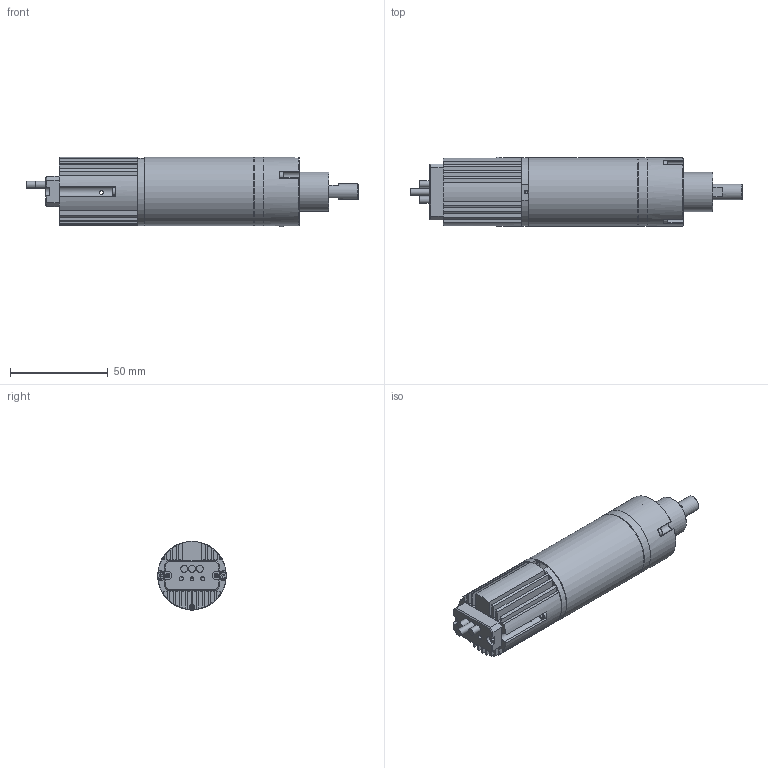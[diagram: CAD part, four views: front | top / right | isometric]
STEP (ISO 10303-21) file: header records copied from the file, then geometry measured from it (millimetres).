
FILE_DESCRIPTION((''),'2;1');
FILE_NAME('D:\SMAC-CAD\CBL\CBL35\CBC\CBL35C-015-YY-3D_A.stp','2015-02-12T14:32:48',('ToanVu'),(''),'Autodesk Inventor 2008','Autodesk Inventor 2008','');
FILE_SCHEMA(('AUTOMOTIVE_DESIGN { 1 0 10303 214 1 1 1 1 }'));
Length unit declared in the file: millimetre
Products named in the file (11): CBL35C-015-YY-3D_A; 18568-01_C; 14714-04_C; 14714-26_B; 21564-05_A; Broached Socket Head Cap Screw - Metric M2x0.4 x 3; 23640-01_A; CBC35COVER; CBC-CABLE;  Part 1 Hexagon Socket Head Cap Screw - Metric M2 x 3; 14714-15_B
Assembly tree (17 placements, depth 2):
  CBL35C-015-YY-3D_A
    18568-01_C
    14714-04_C
    14714-26_B
    21564-05_A
    Broached Socket Head Cap Screw - Metric M2x0.4 x 3  x5
    23640-01_A
    CBC35COVER
    CBC-CABLE  x3
     Part 1 Hexagon Socket Head Cap Screw - Metric M2 x 3  x2
    14714-15_B
Bounding box: 169.8 x 35.8 x 35.4 mm (x, y, z)
Volume: 59420.2 mm3; surface area: 47160.6 mm2
Topology: 17 solids, 17 shells, 421 faces, 1067 edges, 687 vertices
Faces by surface type: plane 178, cylinder 116, bspline 65, cone 55, torus 7
Full cylindrical faces by diameter (mm): 1.567 x4, 2 x12, 2.013 x2, 2.1 x1, 2.4 x9, 2.459 x4, 3 x1, 3.5 x3, 3.6 x3, 3.8 x7, 4 x2, 4.134 x1, 5.5 x1, 6 x1, 8 x1, 10 x1, 10.5 x2, 11.5 x1, 15 x2, 16 x1, 18.4 x1, 20 x1, 35 x3
Entity records: 10796 total; most frequent: CARTESIAN_POINT 2600, DIRECTION 1636, ORIENTED_EDGE 1488, EDGE_CURVE 744, AXIS2_PLACEMENT_3D 620, VERTEX_POINT 538, EDGE_LOOP 526, VECTOR 396
